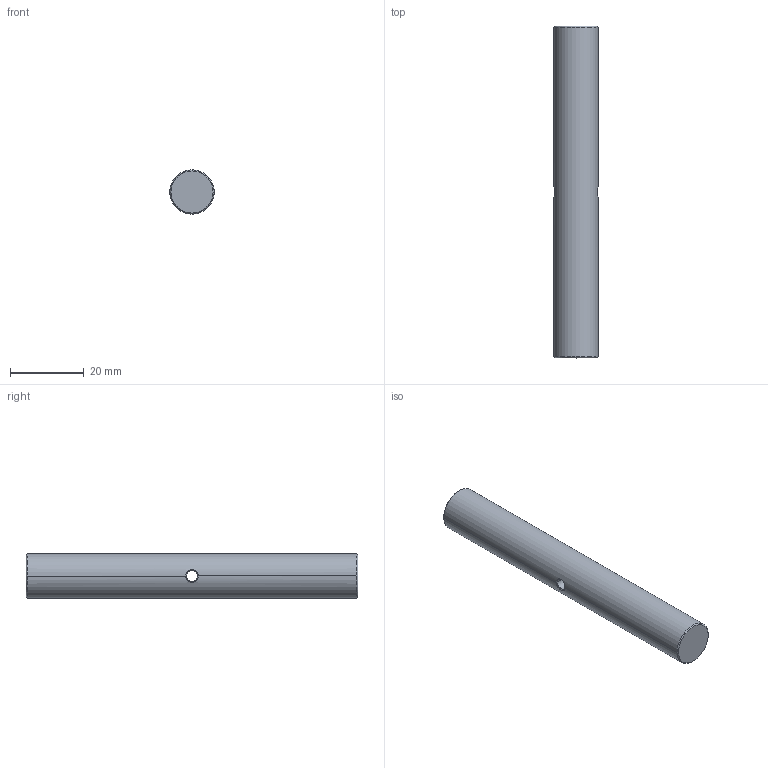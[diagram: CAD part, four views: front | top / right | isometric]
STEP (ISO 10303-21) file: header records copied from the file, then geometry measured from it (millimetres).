
FILE_DESCRIPTION((''),'2;1');
FILE_NAME('PCA90-M4','2020-12-11T',('Administrator'),(''),'CREO PARAMETRIC BY PTC INC, 2015290','CREO PARAMETRIC BY PTC INC, 2015290','');
FILE_SCHEMA(('CONFIG_CONTROL_DESIGN'));
Length unit declared in the file: millimetre
Products named in the file (1): PCA90-M4
Bounding box: 12 x 90 x 12 mm (x, y, z)
Volume: 10012.1 mm3; surface area: 3829 mm2
Topology: 1 solids, 1 shells, 47 faces, 123 edges, 75 vertices
Faces by surface type: cylinder 23, bspline 14, cone 8, plane 2
Entity records: 3316 total; most frequent: CARTESIAN_POINT 2290, ORIENTED_EDGE 242, DIRECTION 139, EDGE_CURVE 121, VERTEX_POINT 75, B_SPLINE_CURVE_WITH_KNOTS 62, EDGE_LOOP 48, AXIS2_PLACEMENT_3D 47
